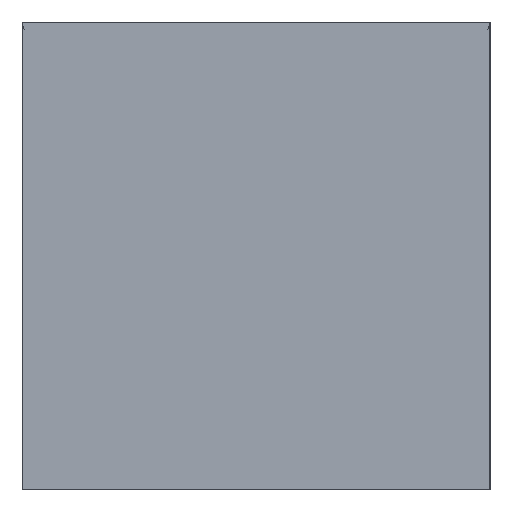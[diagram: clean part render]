
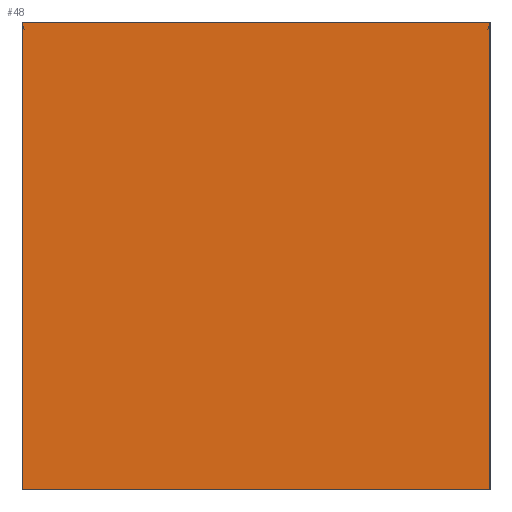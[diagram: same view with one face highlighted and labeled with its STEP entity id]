
A CAD part, left-side view. The second image highlights one B-rep face of the part: STEP entity #48.
In plain terms, the highlighted planar face has unit normal (-1, 0, 0).
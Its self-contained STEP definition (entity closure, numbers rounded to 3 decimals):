
#48 = ADVANCED_FACE('',(#49),#63,.F.);
#49 = FACE_BOUND('',#50,.F.);
#50 = EDGE_LOOP('',(#51,#86,#114,#142));
#51 = ORIENTED_EDGE('',*,*,#52,.F.);
#52 = EDGE_CURVE('',#53,#55,#57,.T.);
#53 = VERTEX_POINT('',#54);
#54 = CARTESIAN_POINT('',(-50000.,-50000.,0.));
#55 = VERTEX_POINT('',#56);
#56 = CARTESIAN_POINT('',(-50000.,-50000.,100000.));
#57 = SURFACE_CURVE('',#58,(#62,#74),.PCURVE_S1.);
#58 = LINE('',#59,#60);
#59 = CARTESIAN_POINT('',(-50000.,-50000.,0.));
#60 = VECTOR('',#61,1000.);
#61 = DIRECTION('',(0.,0.,1.));
#62 = PCURVE('',#63,#68);
#63 = PLANE('',#64);
#64 = AXIS2_PLACEMENT_3D('',#65,#66,#67);
#65 = CARTESIAN_POINT('',(-50000.,-50000.,0.));
#66 = DIRECTION('',(1.,0.,-0.));
#67 = DIRECTION('',(0.,0.,1.));
#68 = DEFINITIONAL_REPRESENTATION('',(#69),#73);
#69 = LINE('',#70,#71);
#70 = CARTESIAN_POINT('',(0.,0.));
#71 = VECTOR('',#72,1.);
#72 = DIRECTION('',(1.,0.));
#73 = ( GEOMETRIC_REPRESENTATION_CONTEXT(2) 
PARAMETRIC_REPRESENTATION_CONTEXT() REPRESENTATION_CONTEXT('2D SPACE',''
  ) );
#74 = PCURVE('',#75,#80);
#75 = PLANE('',#76);
#76 = AXIS2_PLACEMENT_3D('',#77,#78,#79);
#77 = CARTESIAN_POINT('',(-36152.881,-41345.551,
    41425.243));
#78 = DIRECTION('',(-0.53,0.848,0.)
  );
#79 = DIRECTION('',(0.848,0.53,0.));
#80 = DEFINITIONAL_REPRESENTATION('',(#81),#85);
#81 = LINE('',#82,#83);
#82 = CARTESIAN_POINT('',(-16329.182,41425.243));
#83 = VECTOR('',#84,1.);
#84 = DIRECTION('',(0.,-1.));
#85 = ( GEOMETRIC_REPRESENTATION_CONTEXT(2) 
PARAMETRIC_REPRESENTATION_CONTEXT() REPRESENTATION_CONTEXT('2D SPACE',''
  ) );
#86 = ORIENTED_EDGE('',*,*,#87,.T.);
#87 = EDGE_CURVE('',#53,#88,#90,.T.);
#88 = VERTEX_POINT('',#89);
#89 = CARTESIAN_POINT('',(-50000.,50000.,0.));
#90 = SURFACE_CURVE('',#91,(#95,#102),.PCURVE_S1.);
#91 = LINE('',#92,#93);
#92 = CARTESIAN_POINT('',(-50000.,-50000.,0.));
#93 = VECTOR('',#94,1000.);
#94 = DIRECTION('',(-0.,1.,0.));
#95 = PCURVE('',#63,#96);
#96 = DEFINITIONAL_REPRESENTATION('',(#97),#101);
#97 = LINE('',#98,#99);
#98 = CARTESIAN_POINT('',(0.,0.));
#99 = VECTOR('',#100,1.);
#100 = DIRECTION('',(0.,-1.));
#101 = ( GEOMETRIC_REPRESENTATION_CONTEXT(2) 
PARAMETRIC_REPRESENTATION_CONTEXT() REPRESENTATION_CONTEXT('2D SPACE',''
  ) );
#102 = PCURVE('',#103,#108);
#103 = PLANE('',#104);
#104 = AXIS2_PLACEMENT_3D('',#105,#106,#107);
#105 = CARTESIAN_POINT('',(-50000.,-50000.,0.));
#106 = DIRECTION('',(0.,0.,1.));
#107 = DIRECTION('',(1.,0.,-0.));
#108 = DEFINITIONAL_REPRESENTATION('',(#109),#113);
#109 = LINE('',#110,#111);
#110 = CARTESIAN_POINT('',(0.,0.));
#111 = VECTOR('',#112,1.);
#112 = DIRECTION('',(0.,1.));
#113 = ( GEOMETRIC_REPRESENTATION_CONTEXT(2) 
PARAMETRIC_REPRESENTATION_CONTEXT() REPRESENTATION_CONTEXT('2D SPACE',''
  ) );
#114 = ORIENTED_EDGE('',*,*,#115,.T.);
#115 = EDGE_CURVE('',#88,#116,#118,.T.);
#116 = VERTEX_POINT('',#117);
#117 = CARTESIAN_POINT('',(-50000.,50000.,100000.));
#118 = SURFACE_CURVE('',#119,(#123,#130),.PCURVE_S1.);
#119 = LINE('',#120,#121);
#120 = CARTESIAN_POINT('',(-50000.,50000.,0.));
#121 = VECTOR('',#122,1000.);
#122 = DIRECTION('',(-0.,-0.,1.));
#123 = PCURVE('',#63,#124);
#124 = DEFINITIONAL_REPRESENTATION('',(#125),#129);
#125 = LINE('',#126,#127);
#126 = CARTESIAN_POINT('',(0.,-100000.));
#127 = VECTOR('',#128,1.);
#128 = DIRECTION('',(1.,0.));
#129 = ( GEOMETRIC_REPRESENTATION_CONTEXT(2) 
PARAMETRIC_REPRESENTATION_CONTEXT() REPRESENTATION_CONTEXT('2D SPACE',''
  ) );
#130 = PCURVE('',#131,#136);
#131 = PLANE('',#132);
#132 = AXIS2_PLACEMENT_3D('',#133,#134,#135);
#133 = CARTESIAN_POINT('',(-36152.881,41345.551,
    41425.243));
#134 = DIRECTION('',(-0.53,-0.848,0.
    ));
#135 = DIRECTION('',(-0.848,0.53,0.)
  );
#136 = DEFINITIONAL_REPRESENTATION('',(#137),#141);
#137 = LINE('',#138,#139);
#138 = CARTESIAN_POINT('',(16329.182,41425.243));
#139 = VECTOR('',#140,1.);
#140 = DIRECTION('',(0.,-1.));
#141 = ( GEOMETRIC_REPRESENTATION_CONTEXT(2) 
PARAMETRIC_REPRESENTATION_CONTEXT() REPRESENTATION_CONTEXT('2D SPACE',''
  ) );
#142 = ORIENTED_EDGE('',*,*,#143,.F.);
#143 = EDGE_CURVE('',#55,#116,#144,.T.);
#144 = SURFACE_CURVE('',#145,(#149,#156),.PCURVE_S1.);
#145 = LINE('',#146,#147);
#146 = CARTESIAN_POINT('',(-50000.,-50000.,100000.));
#147 = VECTOR('',#148,1000.);
#148 = DIRECTION('',(-0.,1.,0.));
#149 = PCURVE('',#63,#150);
#150 = DEFINITIONAL_REPRESENTATION('',(#151),#155);
#151 = LINE('',#152,#153);
#152 = CARTESIAN_POINT('',(100000.,0.));
#153 = VECTOR('',#154,1.);
#154 = DIRECTION('',(0.,-1.));
#155 = ( GEOMETRIC_REPRESENTATION_CONTEXT(2) 
PARAMETRIC_REPRESENTATION_CONTEXT() REPRESENTATION_CONTEXT('2D SPACE',''
  ) );
#156 = PCURVE('',#157,#162);
#157 = PLANE('',#158);
#158 = AXIS2_PLACEMENT_3D('',#159,#160,#161);
#159 = CARTESIAN_POINT('',(-10000.,-25000.,20000.));
#160 = DIRECTION('',(-0.894,0.,-0.447));
#161 = DIRECTION('',(0.447,0.,-0.894));
#162 = DEFINITIONAL_REPRESENTATION('',(#163),#167);
#163 = LINE('',#164,#165);
#164 = CARTESIAN_POINT('',(-89442.719,25000.));
#165 = VECTOR('',#166,1.);
#166 = DIRECTION('',(0.,-1.));
#167 = ( GEOMETRIC_REPRESENTATION_CONTEXT(2) 
PARAMETRIC_REPRESENTATION_CONTEXT() REPRESENTATION_CONTEXT('2D SPACE',''
  ) );
